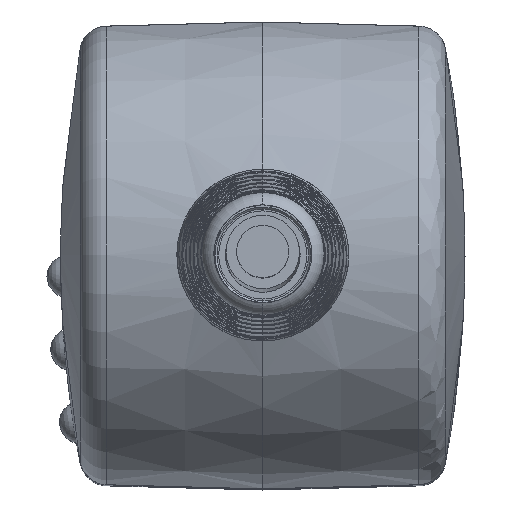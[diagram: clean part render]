
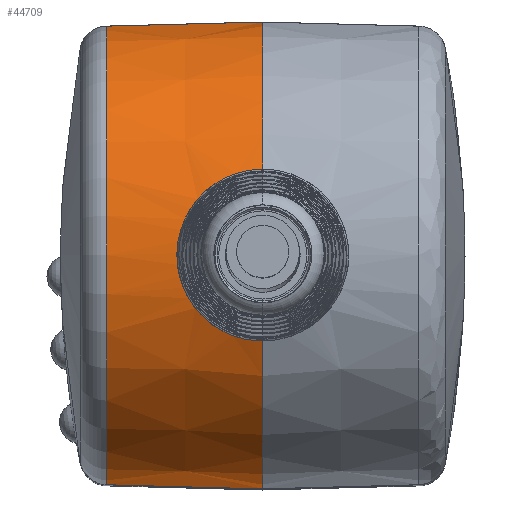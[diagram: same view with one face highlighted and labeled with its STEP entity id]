
A CAD part, top view. The second image highlights one B-rep face of the part: STEP entity #44709.
In plain terms, the highlighted conical face has half-angle 1.5 degrees and reference radius 12.589 mm.
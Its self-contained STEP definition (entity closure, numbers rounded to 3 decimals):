
#39585=CARTESIAN_POINT('',(0.,0.,34.576));
#39586=DIRECTION('',(1.,0.,0.));
#39587=DIRECTION('',(0.,1.,0.024));
#39588=AXIS2_PLACEMENT_3D('',#39585,#39586,#39587);
#39823=CARTESIAN_POINT('',(0.,0.,34.576));
#39824=DIRECTION('',(1.,0.,0.));
#39825=DIRECTION('',(0.,-0.368,0.93));
#39826=AXIS2_PLACEMENT_3D('',#39823,#39824,#39825);
#40209=CARTESIAN_POINT('',(-8.5,0.,34.576));
#40210=DIRECTION('',(-1.,0.,0.));
#40211=DIRECTION('',(0.,-1.,0.024));
#40212=AXIS2_PLACEMENT_3D('',#40209,#40210,#40211);
#40217=DIRECTION('',(-1.,-0.026,0.));
#40218=VECTOR('',#40217,8.503);
#40219=CARTESIAN_POINT('',(0.,12.696,34.878));
#40220=LINE('',#40219,#40218);
#40224=DIRECTION('',(1.,-0.026,0.));
#40225=VECTOR('',#40224,8.503);
#40226=CARTESIAN_POINT('',(-8.5,-12.474,
34.878));
#40227=LINE('',#40226,#40225);
#40580=CARTESIAN_POINT('',(0.,4.675,46.384));
#40581=CARTESIAN_POINT('',(-0.287,4.675,46.376));
#40582=CARTESIAN_POINT('',(-0.873,4.623,
46.381));
#40583=CARTESIAN_POINT('',(-1.775,4.359,
46.457));
#40584=CARTESIAN_POINT('',(-2.606,3.918,
46.589));
#40585=CARTESIAN_POINT('',(-3.315,3.339,
46.745));
#40586=CARTESIAN_POINT('',(-3.905,2.627,
46.905));
#40587=CARTESIAN_POINT('',(-4.35,1.797,
47.044));
#40588=CARTESIAN_POINT('',(-4.619,0.897,
47.134));
#40589=CARTESIAN_POINT('',(-4.704,-0.007,
47.164));
#40590=CARTESIAN_POINT('',(-4.616,-0.912,
47.133));
#40591=CARTESIAN_POINT('',(-4.344,-1.811,
47.042));
#40592=CARTESIAN_POINT('',(-3.896,-2.64,
46.903));
#40593=CARTESIAN_POINT('',(-3.305,-3.348,
46.743));
#40594=CARTESIAN_POINT('',(-2.594,-3.925,
46.587));
#40595=CARTESIAN_POINT('',(-1.773,-4.359,
46.457));
#40596=CARTESIAN_POINT('',(-0.876,-4.622,
46.381));
#40597=CARTESIAN_POINT('',(-0.288,-4.675,46.376));
#40598=CARTESIAN_POINT('',(0.,-4.675,46.384));
#43537=VERTEX_POINT('',#40580);
#43538=VERTEX_POINT('',#40598);
#43675=CARTESIAN_POINT('',(-8.5,-12.474,
34.878));
#43676=CARTESIAN_POINT('',(-8.5,12.474,
34.878));
#43677=VERTEX_POINT('',#43675);
#43678=VERTEX_POINT('',#43676);
#43695=CARTESIAN_POINT('',(0.,12.696,34.878));
#43696=VERTEX_POINT('',#43695);
#43699=CARTESIAN_POINT('',(0.,-12.696,34.878));
#43700=VERTEX_POINT('',#43699);
#44693=CARTESIAN_POINT('',(-4.25,0.,34.576));
#44694=DIRECTION('',(1.,0.,0.));
#44695=DIRECTION('',(0.,0.,-1.));
#44696=AXIS2_PLACEMENT_3D('',#44693,#44694,#44695);
#44697=CONICAL_SURFACE('',#44696,12.589,1.5);
#44699=ORIENTED_EDGE('',*,*,#44698,.T.);
#44700=ORIENTED_EDGE('',*,*,#44685,.F.);
#44701=ORIENTED_EDGE('',*,*,#44219,.T.);
#44703=ORIENTED_EDGE('',*,*,#44702,.T.);
#44704=ORIENTED_EDGE('',*,*,#44297,.T.);
#44706=ORIENTED_EDGE('',*,*,#44705,.F.);
#44707=EDGE_LOOP('',(#44699,#44700,#44701,#44703,#44704,#44706));
#44708=FACE_OUTER_BOUND('',#44707,.F.);
#44709=ADVANCED_FACE('',(#44708),#44697,.T.);
#39589=CIRCLE('',#39588,12.7);
#39827=CIRCLE('',#39826,12.7);
#40213=CIRCLE('',#40212,12.477);
#40599=B_SPLINE_CURVE_WITH_KNOTS('',3,(#40580,#40581,#40582,#40583,#40584,
#40585,#40586,#40587,#40588,#40589,#40590,#40591,#40592,#40593,#40594,#40595,
#40596,#40597,#40598),.UNSPECIFIED.,.F.,.F.,(4,1,1,1,1,1,1,1,1,1,1,1,1,1,1,1,4),
(0.,0.063,0.125,0.188,0.25,0.313,0.375,0.438,0.5,0.563,
0.625,0.688,0.75,0.813,0.875,0.938,1.),.UNSPECIFIED.);
#44219=EDGE_CURVE('',#43696,#43537,#39589,.T.);
#44297=EDGE_CURVE('',#43538,#43700,#39827,.T.);
#44685=EDGE_CURVE('',#43696,#43678,#40220,.T.);
#44698=EDGE_CURVE('',#43677,#43678,#40213,.T.);
#44702=EDGE_CURVE('',#43537,#43538,#40599,.T.);
#44705=EDGE_CURVE('',#43677,#43700,#40227,.T.);
